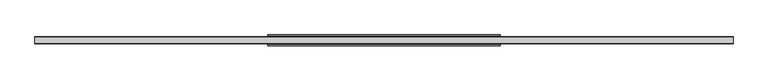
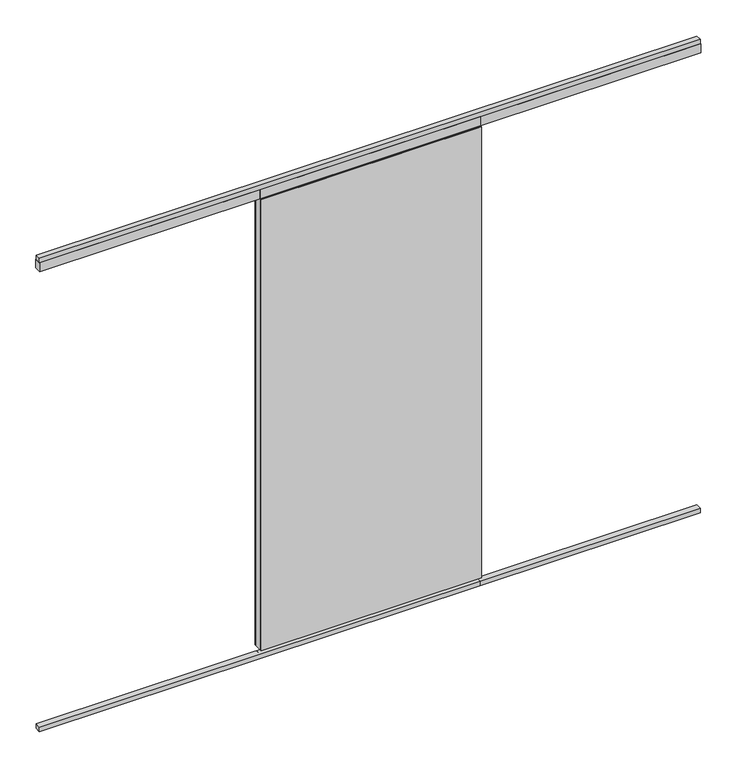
"""IFC4 building model written with IfcOpenShell, lengths in millimetres: proxy geometry, Renson_Algarve_Loggia_Canvas_Double : Renson_Algarve_Loggia_Canvas_Double."""

from ifc_helpers import new_model, si_unit, frame, origin, origin_with_axes, place, context, project, spatial, polyline, outline, extrude, source, transform, mapped, element, save


def generic_models_3da02b87(model_context):
    return source(origin(), model_context, "Body", "SweptSolid", [
        extrude(outline(polyline([(-500.0, 23.0), (500.0, 23.0), (500.0, 20.0), (-500.0, 20.0), (-500.0, 23.0)])), frame((0.0, 0.0, 45.0), z_axis=(0.0, 0.0, 1.0), x_axis=(1.0, 0.0, 0.0)), (0.0, 0.0, 1.0), 2162.7138321),
        extrude(outline(polyline([(1500.0, -13.0), (-1500.0, -13.0), (-1500.0, 14.0), (1500.0, 14.0), (1500.0, -13.0)])), frame((0.0, 0.0, 2250.0), z_axis=(0.0, 0.0, 1.0), x_axis=(1.0, 0.0, 0.0)), (0.0, 0.0, 1.0), 20.0),
        extrude(outline(polyline([(500.0, 15.0), (500.0, -15.0), (-1500.0, -15.0), (-1500.0, 15.0), (500.0, 15.0)])), frame((0.0, 0.0, 2207.7138321), z_axis=(0.0, 0.0, 1.0), x_axis=(1.0, 0.0, 0.0)), (0.0, 0.0, 1.0), 42.2861679),
        extrude(outline(polyline([(1500.0, 15.0), (1500.0, -15.0), (-500.0, -15.0), (-500.0, 15.0), (1500.0, 15.0)])), frame((0.0, 0.0, 2207.7138321), z_axis=(0.0, 0.0, 1.0), x_axis=(1.0, 0.0, 0.0)), (0.0, 0.0, 1.0), 42.2861679),
        extrude(outline(polyline([(500.0, -13.0), (-1500.0, -13.0), (-1500.0, 14.0), (500.0, 14.0), (500.0, -13.0)])), origin_with_axes(), (0.0, 0.0, 1.0), 23.0),
        extrude(outline(polyline([(500.0, -23.0), (-500.0, -23.0), (-500.0, -20.0), (500.0, -20.0), (500.0, -23.0)])), frame((0.0, 0.0, 45.0), z_axis=(0.0, 0.0, 1.0), x_axis=(1.0, 0.0, 0.0)), (0.0, 0.0, 1.0), 2162.7138321),
        extrude(outline(polyline([(1500.0, -13.0), (-500.0, -13.0), (-500.0, 14.0), (1500.0, 14.0), (1500.0, -13.0)])), origin_with_axes(), (0.0, 0.0, 1.0), 23.0),
        extrude(outline(polyline([(2207.7138321, -500.0), (45.0, -500.0), (45.0, 500.0), (2207.7138321, 500.0), (2207.7138321, -500.0)]), holes=[polyline([(2167.7138321, 460.0), (85.0, 460.0), (85.0, -460.0), (2167.7138321, -460.0), (2167.7138321, 460.0)])]), frame((0.0, -20.0, 0.0), z_axis=(0.0, 1.0, 0.0), x_axis=(0.0, 0.0, 1.0)), (0.0, 0.0, 1.0), 40.0),
    ])


if __name__ == "__main__":
    model = new_model("IFC4")
    model_context = context("Model", 3, world=origin())
    ifc_project = project(units=[si_unit("LENGTHUNIT", "METRE", prefix="MILLI")], contexts=[model_context])
    site = spatial("IfcSite", under=ifc_project)
    building = spatial("IfcBuilding", under=site)
    placement = place(None, origin())
    generic_models_shape = generic_models_3da02b87(model_context)
    element("IfcBuildingElementProxy", 1, Name="Renson_Algarve_Loggia_Canvas_Double : Renson_Algarve_Loggia_Canvas_Double", ObjectType="Renson_Algarve_Loggia_Canvas_Double : Renson_Algarve_Loggia_Canvas_Double", at=placement, inside=building, context=model_context, shape_type="MappedRepresentation", body=[
        mapped(generic_models_shape, transform((0.0, 0.0, 0.0), x_axis=(1.0, 0.0, 0.0), y_axis=(0.0, 1.0, 0.0), z_axis=(0.0, 0.0, 1.0))),
    ])
    save(model, "model.ifc")
